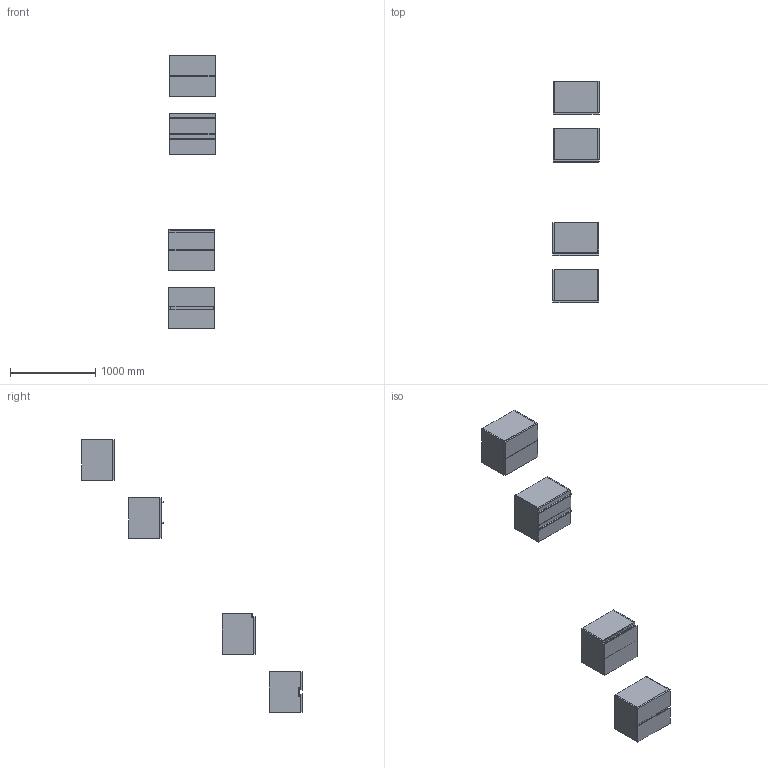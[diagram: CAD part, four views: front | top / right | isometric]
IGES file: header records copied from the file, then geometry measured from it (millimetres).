
Start section: Data from Parasolid IGES Translator 19.0.9, Copyright(c) 2006 Siemens PL M Software. All Rights Reserved.
Global section: file name: noorth-SI-H 48 D 38,8 W 54_8411.igs; native system: By Siemens PLM Incorporated; preprocessor: XPlus GENERIC/IGES 19.0.9; author: Noname; organization: Noname; date: 20200601.102841; units: metre
Bounding box: 543.67 x 2585.1 x 3199.21 mm (x, y, z)
Volume: 68017772.7 mm3; surface area: 10504424.3 mm2
Topology: 33 solids, 33 shells, 318 faces, 700 edges, 428 vertices
Faces by surface type: plane 230, extrusion 36, bspline 32, cylinder 20
